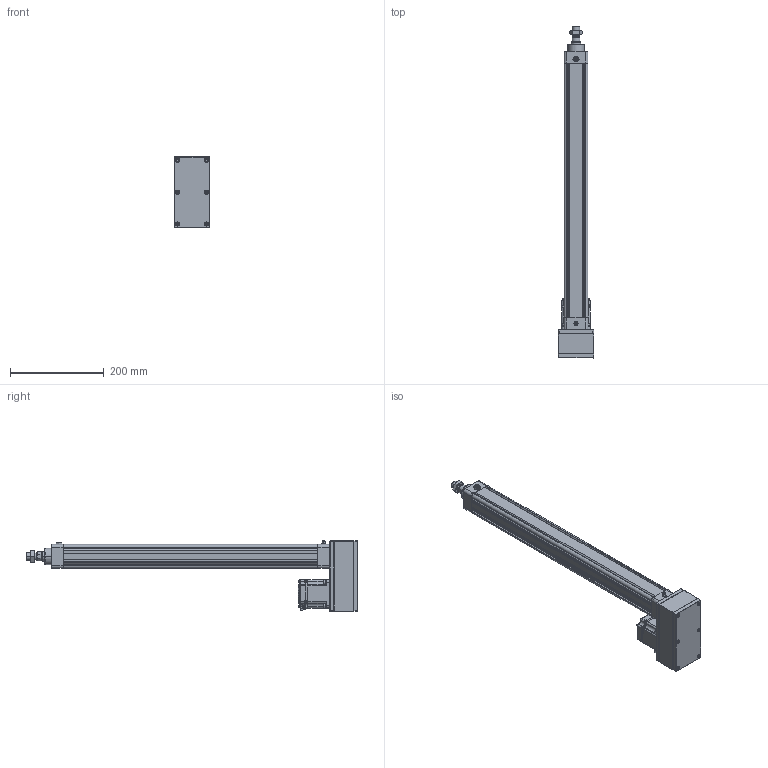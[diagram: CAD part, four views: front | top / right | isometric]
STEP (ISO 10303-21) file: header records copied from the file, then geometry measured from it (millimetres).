
FILE_DESCRIPTION((''),'2;1');
FILE_NAME('ASM0001_ASM','2020-04-07T',('ASUS20200'),(''),'CREO PARAMETRIC BY PTC INC, 2014190','CREO PARAMETRIC BY PTC INC, 2014190','');
FILE_SCHEMA(('CONFIG_CONTROL_DESIGN'));
Length unit declared in the file: millimetre
Products named in the file (23): HE40-D-P-001-X1; HE40-D-P-002-X1; HE40-D-P-003-X1; 6200ZZ; SLM-01; YZ-M6X1; JDB202820; HE40-P-010-X1-200W; _MHMF022L1A2; MHMF022L1A2M2_1_ASM; MHMF022L1A2M2_ASM; JX5X5X20; TD-5; M5X20; LM-M6X1; HE40-P-012-X2; HE40-P-014-X1; M4X65; HE40-D-P-005-X1; HE40-D-P-004-X1; HE40-D-P-008-X1; LGLM-M6-22; ASM0001_ASM
Assembly tree (39 placements, depth 4):
  ASM0001_ASM
    HE40-D-P-001-X1
    HE40-D-P-002-X1
    HE40-D-P-003-X1
    6200ZZ
    SLM-01
    YZ-M6X1
    JDB202820
    HE40-P-010-X1-200W
    MHMF022L1A2M2_ASM
      MHMF022L1A2M2_1_ASM
        _MHMF022L1A2
    JX5X5X20
    TD-5  x4
    M5X20  x4
    LM-M6X1  x4
    HE40-P-012-X2
    HE40-P-014-X1
    M4X65  x6
    HE40-D-P-005-X1
    HE40-D-P-004-X1
    HE40-D-P-008-X1
    LGLM-M6-22  x4
Bounding box: 75 x 707.5 x 150.5 mm (x, y, z)
Volume: 1223235.9 mm3; surface area: 461347.5 mm2
Topology: 37 solids, 60 shells, 1851 faces, 4343 edges, 2662 vertices
Faces by surface type: plane 691, cylinder 531, cone 493, torus 110, sphere 22, bspline 4
Entity records: 44678 total; most frequent: CARTESIAN_POINT 8466, DIRECTION 8083, ORIENTED_EDGE 6978, EDGE_CURVE 3529, AXIS2_PLACEMENT_3D 3120, VERTEX_POINT 2181, VECTOR 1843, LINE 1843
